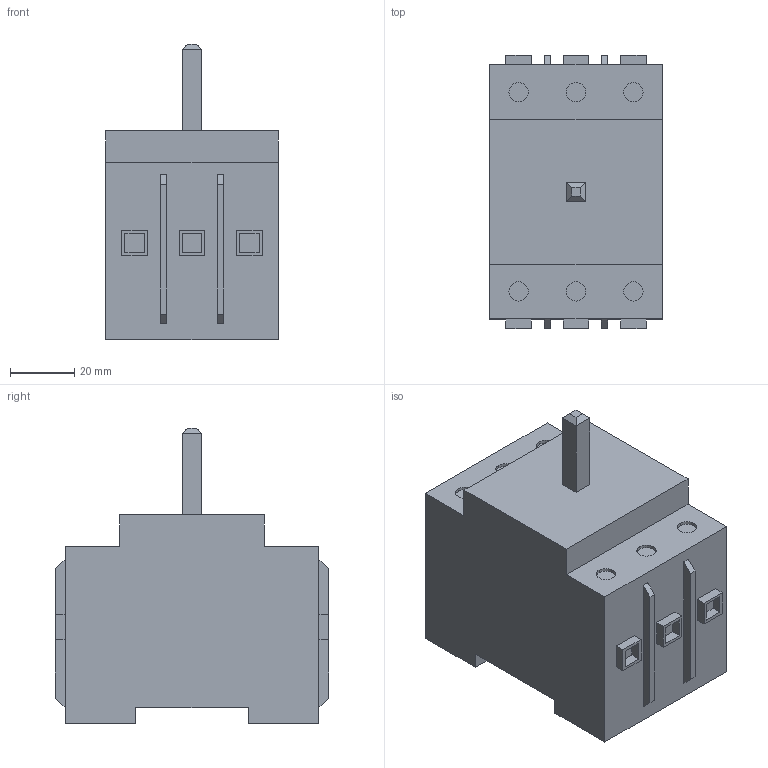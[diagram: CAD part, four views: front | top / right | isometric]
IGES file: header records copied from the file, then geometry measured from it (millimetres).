
Start section:  PTC IGES file: D:\PartsXML Tools\RobotParts\Generation\Test_dotCAD\CAD\ Temp\bloc_nu_022150.igs
Global section: file name: D:\PartsXML Tools\RobotParts\Generation\Test_dotCAD\CAD\Temp\bloc_nu_022150.igs; native system:  by Parametric Technology Corporation; preprocessor: 2013430; organization: Unknown; date: 20190109.090003; units: millimetre
Bounding box: 53.6 x 85 x 92 mm (x, y, z)
Volume: 250499 mm3; surface area: 28034.6 mm2
Topology: 1 solids, 1 shells, 121 faces, 284 edges, 188 vertices
Faces by surface type: bspline 109, revolution 12
